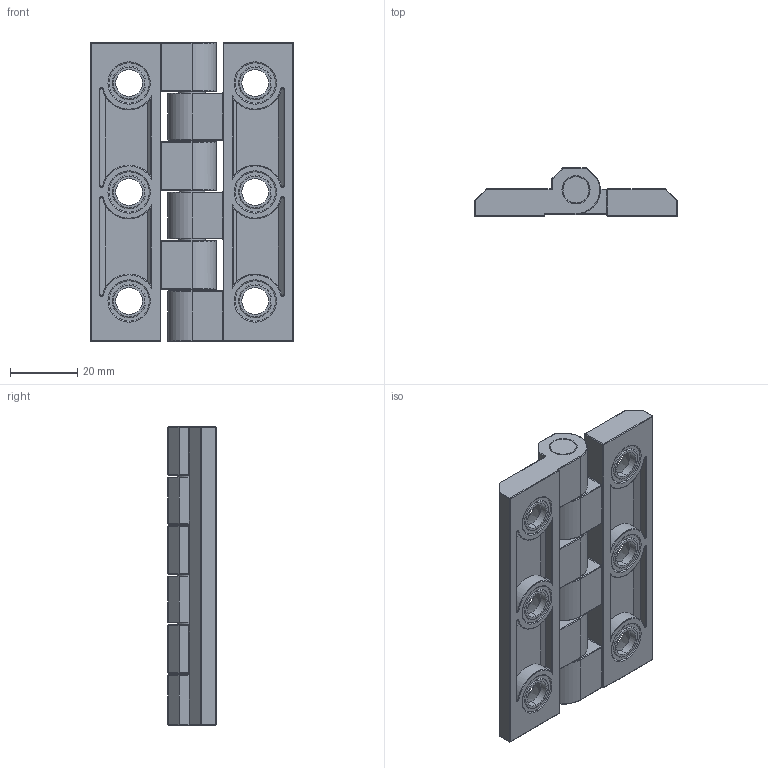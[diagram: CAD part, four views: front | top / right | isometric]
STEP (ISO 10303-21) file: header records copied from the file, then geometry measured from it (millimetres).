
FILE_DESCRIPTION (( 'STEP AP203' ), '1' );
FILE_NAME ('XG02-030-1.STEP', '2025-04-19T08:26:22', ( '微软用户' ), ( '微软中国' ), 'SwSTEP 2.0', 'SolidWorks 2024', '' );
FILE_SCHEMA (( 'CONFIG_CONTROL_DESIGN' ));
Length unit declared in the file: millimetre
Products named in the file (1): XG02-030-1
Bounding box: 60.5 x 14.37 x 89 mm (x, y, z)
Volume: 35834.6 mm3; surface area: 21562.3 mm2
Topology: 3 solids, 3 shells, 587 faces, 1397 edges, 746 vertices
Faces by surface type: cylinder 235, torus 146, plane 88, sphere 84, bspline 22, cone 12
Entity records: 17952 total; most frequent: CARTESIAN_POINT 4651, DIRECTION 3091, ORIENTED_EDGE 2634, AXIS2_PLACEMENT_3D 1328, EDGE_CURVE 1317, CIRCLE 762, VERTEX_POINT 746, EDGE_LOOP 621
